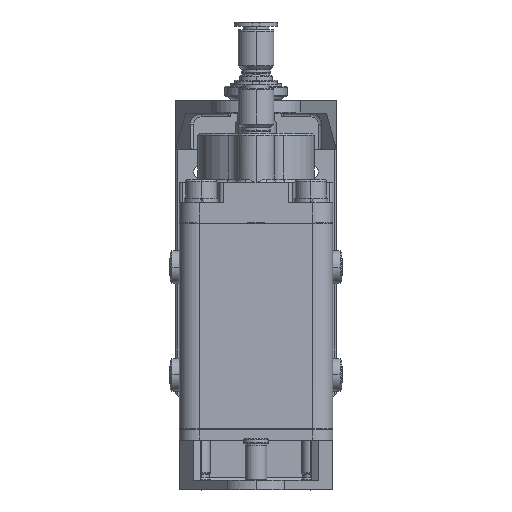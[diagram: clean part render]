
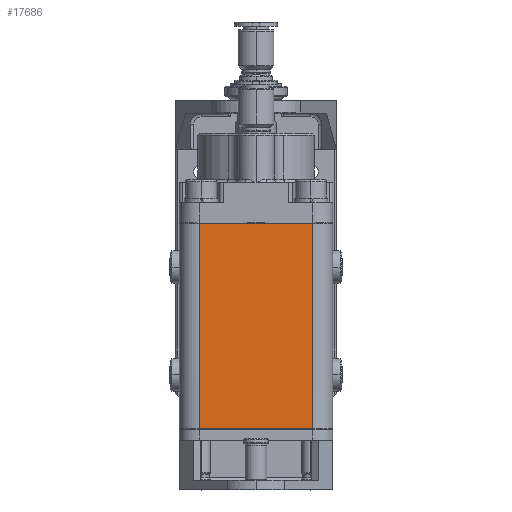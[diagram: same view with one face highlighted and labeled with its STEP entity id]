
A CAD part, top view. The second image highlights one B-rep face of the part: STEP entity #17686.
In plain terms, the highlighted planar face has unit normal (0, 0, 1).
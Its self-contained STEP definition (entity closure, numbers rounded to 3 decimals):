
#482 = CARTESIAN_POINT ( 'NONE',  ( 15.5, 28.25, 23.5 ) ) ;
#2996 = EDGE_CURVE ( 'NONE', #21701, #22133, #33585, .T. ) ;
#4119 = VECTOR ( 'NONE', #31511, 1000. ) ;
#4133 = ORIENTED_EDGE ( 'NONE', *, *, #8482, .T. ) ;
#5074 = ORIENTED_EDGE ( 'NONE', *, *, #2996, .T. ) ;
#8482 = EDGE_CURVE ( 'NONE', #12110, #21701, #9945, .T. ) ;
#9945 = LINE ( 'NONE', #36384, #19040 ) ;
#12110 = VERTEX_POINT ( 'NONE', #12373 ) ;
#12373 = CARTESIAN_POINT ( 'NONE',  ( -15.5, 56.425, 23.45 ) ) ;
#13028 = AXIS2_PLACEMENT_3D ( 'NONE', #22420, #49431, #26312 ) ;
#13620 = DIRECTION ( 'NONE',  ( 1., 0., 0. ) ) ;
#13683 = CARTESIAN_POINT ( 'NONE',  ( 0., 0.2, 23.5 ) ) ;
#17686 = ADVANCED_FACE ( 'NONE', ( #25070 ), #22252, .T. ) ;
#18897 = CARTESIAN_POINT ( 'NONE',  ( 15.5, 56.425, 23.45 ) ) ;
#19040 = VECTOR ( 'NONE', #37002, 1000. ) ;
#21218 = LINE ( 'NONE', #36125, #49602 ) ;
#21701 = VERTEX_POINT ( 'NONE', #22208 ) ;
#22133 = VERTEX_POINT ( 'NONE', #23150 ) ;
#22208 = CARTESIAN_POINT ( 'NONE',  ( -15.5, 0.2, 23.5 ) ) ;
#22210 = EDGE_CURVE ( 'NONE', #35093, #12110, #21218, .T. ) ;
#22252 = PLANE ( 'NONE',  #13028 ) ;
#22420 = CARTESIAN_POINT ( 'NONE',  ( -18.6, -5.41, 23.5 ) ) ;
#23150 = CARTESIAN_POINT ( 'NONE',  ( 15.5, 0.2, 23.5 ) ) ;
#24493 = VECTOR ( 'NONE', #13620, 1000. ) ;
#25070 = FACE_OUTER_BOUND ( 'NONE', #46317, .T. ) ;
#26312 = DIRECTION ( 'NONE',  ( 1., 0., 0. ) ) ;
#27458 = ORIENTED_EDGE ( 'NONE', *, *, #22210, .T. ) ;
#28793 = ORIENTED_EDGE ( 'NONE', *, *, #46301, .F. ) ;
#31511 = DIRECTION ( 'NONE',  ( 0., -1., 0. ) ) ;
#33585 = LINE ( 'NONE', #13683, #24493 ) ;
#35093 = VERTEX_POINT ( 'NONE', #18897 ) ;
#36125 = CARTESIAN_POINT ( 'NONE',  ( 0., 56.3, 23.5 ) ) ;
#36384 = CARTESIAN_POINT ( 'NONE',  ( -15.5, 28.25, 23.5 ) ) ;
#37002 = DIRECTION ( 'NONE',  ( 0., -1., 0. ) ) ;
#39996 = DIRECTION ( 'NONE',  ( -1., 0., 0. ) ) ;
#46301 = EDGE_CURVE ( 'NONE', #35093, #22133, #46397, .T. ) ;
#46317 = EDGE_LOOP ( 'NONE', ( #5074, #28793, #27458, #4133 ) ) ;
#46397 = LINE ( 'NONE', #482, #4119 ) ;
#49431 = DIRECTION ( 'NONE',  ( 0., 0., 1. ) ) ;
#49602 = VECTOR ( 'NONE', #39996, 1000. ) ;
